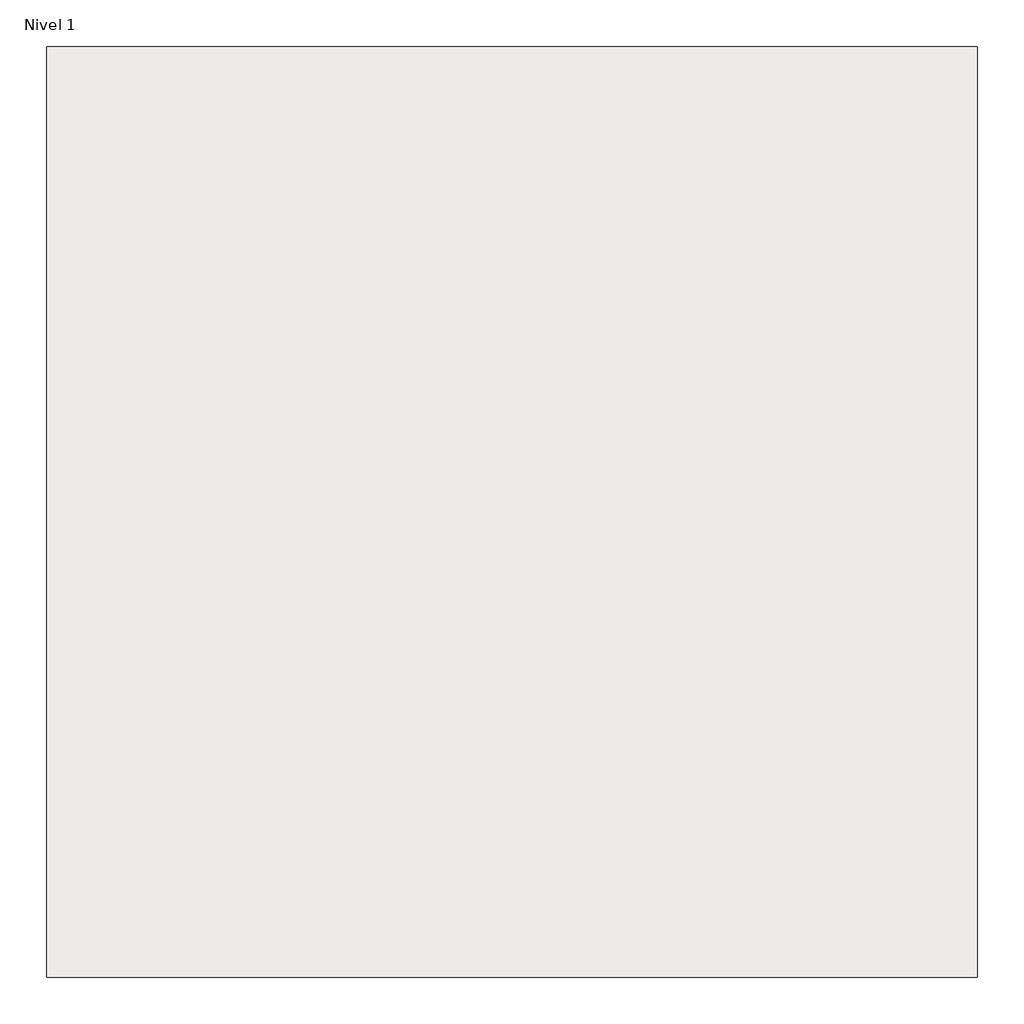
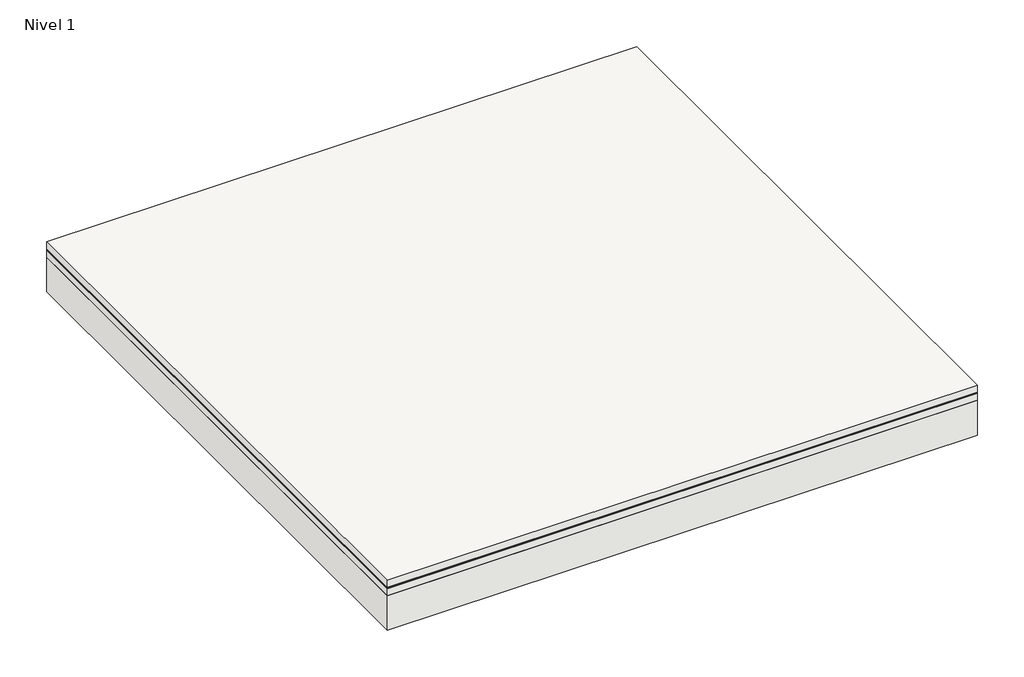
# One storey: 1 roof.
"""IFC4 building model written with IfcOpenShell, lengths in millimetres."""

from ifc_helpers import new_model, si_unit, frame, origin, origin_with_axes, place, context, project, spatial, polyline, outline, extrude, element, save

model = new_model("IFC4")

# Units and contexts
model_context = context("Model", 3, world=origin())
ifc_project = project(units=[si_unit("LENGTHUNIT", "METRE", prefix="MILLI")], contexts=[model_context])

# Site, building, storey
site = spatial("IfcSite", under=ifc_project)
building = spatial("IfcBuilding", under=site)
storey = spatial("IfcBuildingStorey", under=building, Name="Nivel 1", Elevation=0.0)

# Roof
placement = place(None, origin())
element("IfcRoof", 1, ObjectType="CubiertaPlanaConvenTrans-TraficoVehiculos_CapaRodaduraAglomeradoAsfaltico_BCTVA", at=placement, inside=storey, context=model_context, shape_type="SweptSolid", body=[
    extrude(outline(polyline([(-2544.9527165, -3086.8428917), (-6544.9527165, -3086.8428917), (-6544.9527165, 913.1571083), (-2544.9527165, 913.1571083), (-2544.9527165, -3086.8428917)])), frame((0.0, 0.0, 308.0), z_axis=(0.0, 0.0, 1.0), x_axis=(1.0, 0.0, 0.0)), (0.0, 0.0, 1.0), 50.0),
    extrude(outline(polyline([(-2544.9527165, -3086.8428917), (-6544.9527165, -3086.8428917), (-6544.9527165, 913.1571083), (-2544.9527165, 913.1571083), (-2544.9527165, -3086.8428917)])), frame((0.0, 0.0, 306.0), z_axis=(0.0, 0.0, 1.0), x_axis=(1.0, 0.0, 0.0)), (0.0, 0.0, 1.0), 2.0),
    extrude(outline(polyline([(-2544.9527165, -3086.8428917), (-6544.9527165, -3086.8428917), (-6544.9527165, 913.1571083), (-2544.9527165, 913.1571083), (-2544.9527165, -3086.8428917)])), frame((0.0, 0.0, 304.0), z_axis=(0.0, 0.0, 1.0), x_axis=(1.0, 0.0, 0.0)), (0.0, 0.0, 1.0), 2.0),
    extrude(outline(polyline([(-2544.9527165, -3086.8428917), (-6544.9527165, -3086.8428917), (-6544.9527165, 913.1571083), (-2544.9527165, 913.1571083), (-2544.9527165, -3086.8428917)])), frame((0.0, 0.0, 302.0), z_axis=(0.0, 0.0, 1.0), x_axis=(1.0, 0.0, 0.0)), (0.0, 0.0, 1.0), 2.0),
    extrude(outline(polyline([(-2544.9527165, -3086.8428917), (-6544.9527165, -3086.8428917), (-6544.9527165, 913.1571083), (-2544.9527165, 913.1571083), (-2544.9527165, -3086.8428917)])), frame((0.0, 0.0, 300.0), z_axis=(0.0, 0.0, 1.0), x_axis=(1.0, 0.0, 0.0)), (0.0, 0.0, 1.0), 2.0),
    extrude(outline(polyline([(-2544.9527165, -3086.8428917), (-6544.9527165, -3086.8428917), (-6544.9527165, 913.1571083), (-2544.9527165, 913.1571083), (-2544.9527165, -3086.8428917)])), frame((0.0, 0.0, 250.0), z_axis=(0.0, 0.0, 1.0), x_axis=(1.0, 0.0, 0.0)), (0.0, 0.0, 1.0), 50.0),
    extrude(outline(polyline([(-2544.9527165, -3086.8428917), (-6544.9527165, -3086.8428917), (-6544.9527165, 913.1571083), (-2544.9527165, 913.1571083), (-2544.9527165, -3086.8428917)])), origin_with_axes(), (0.0, 0.0, 1.0), 250.0),
])

save(model, "model.ifc")
